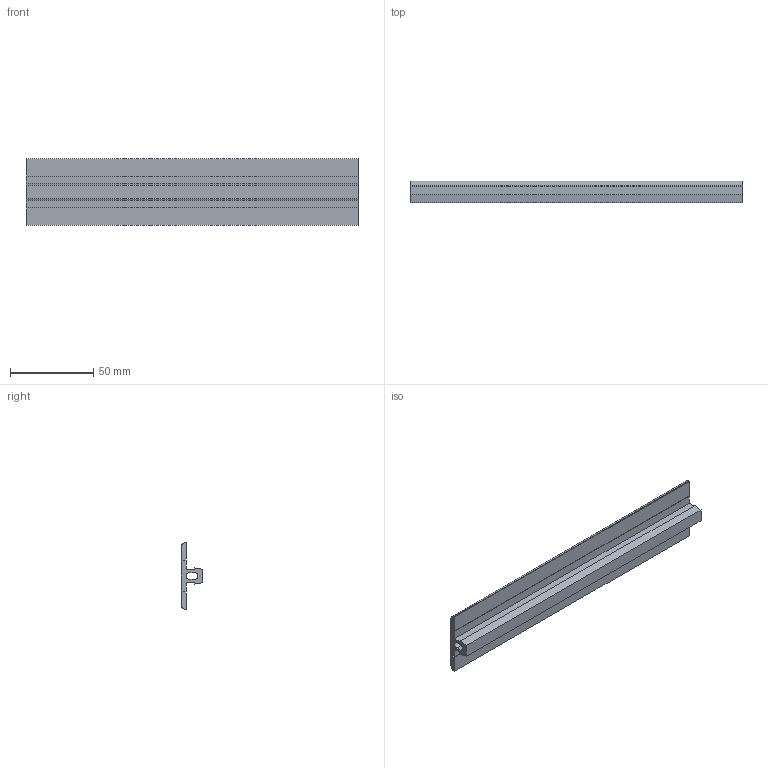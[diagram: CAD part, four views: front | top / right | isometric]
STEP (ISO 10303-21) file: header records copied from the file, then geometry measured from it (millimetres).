
FILE_DESCRIPTION (( 'STEP AP214' ), '1' );
FILE_NAME ('1.6028 Suojakumi NBR.STEP', '2024-03-14T09:33:45', ( '' ), ( '' ), 'SwSTEP 2.0', 'SolidWorks 2024', '' );
FILE_SCHEMA (( 'AUTOMOTIVE_DESIGN' ));
Length unit declared in the file: millimetre
Products named in the file (1): 1.6028 Suojakumi NBR
Bounding box: 200 x 13 x 40 mm (x, y, z)
Volume: 35353.2 mm3; surface area: 26320.2 mm2
Topology: 1 solids, 1 shells, 26 faces, 72 edges, 48 vertices
Faces by surface type: plane 22, cylinder 4
Entity records: 1137 total; most frequent: CARTESIAN_POINT 147, ORIENTED_EDGE 144, DIRECTION 134, EDGE_CURVE 72, LINE 64, VECTOR 64, VERTEX_POINT 48, AXIS2_PLACEMENT_3D 35
